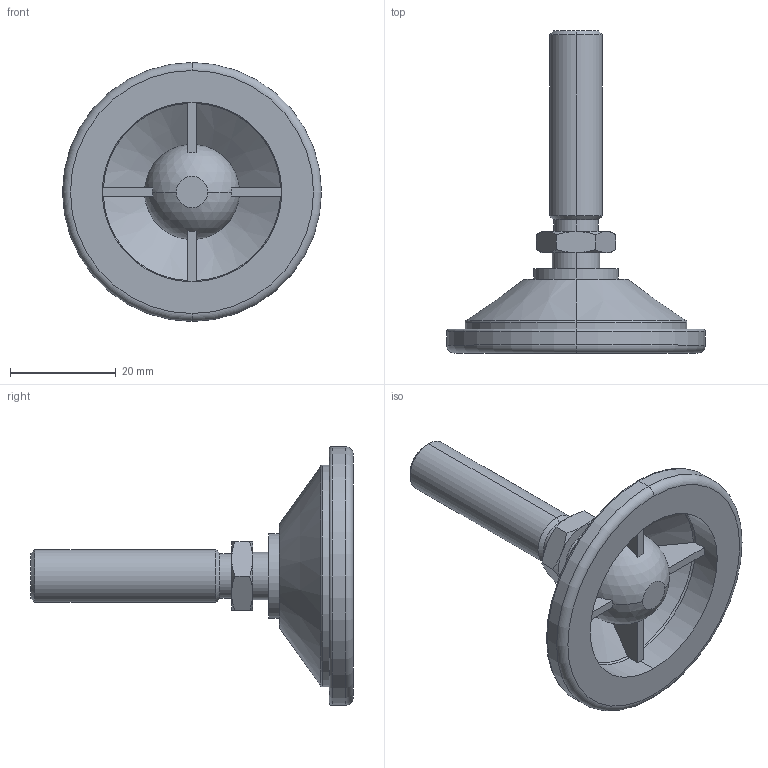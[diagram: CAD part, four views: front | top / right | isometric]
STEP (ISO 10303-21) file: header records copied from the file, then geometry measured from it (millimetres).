
FILE_DESCRIPTION (( 'STEP AP203' ), '1' );
FILE_NAME ('3472.W101.step', '2009-10-21T16:58:46', ( 'Wixroyd' ), ( 'Wixroyd' ), 'SwSTEP 2.0', 'SolidWorks 2009', '' );
FILE_SCHEMA (( 'CONFIG_CONTROL_DESIGN' ));
Length unit declared in the file: millimetre
Products named in the file (3): Part1_3472W101; Part2_3472W101; 3472.W101
Assembly tree (2 placements, depth 2):
  3472.W101
    Part2_3472W101
    Part1_3472W101
Bounding box: 49 x 61 x 49 mm (x, y, z)
Volume: 14411.2 mm3; surface area: 9185.7 mm2
Topology: 2 solids, 2 shells, 94 faces, 229 edges, 143 vertices
Faces by surface type: plane 38, cone 22, cylinder 16, torus 12, sphere 6
Entity records: 3159 total; most frequent: CARTESIAN_POINT 659, DIRECTION 508, ORIENTED_EDGE 442, AXIS2_PLACEMENT_3D 228, EDGE_CURVE 221, VERTEX_POINT 139, CIRCLE 129, EDGE_LOOP 102
